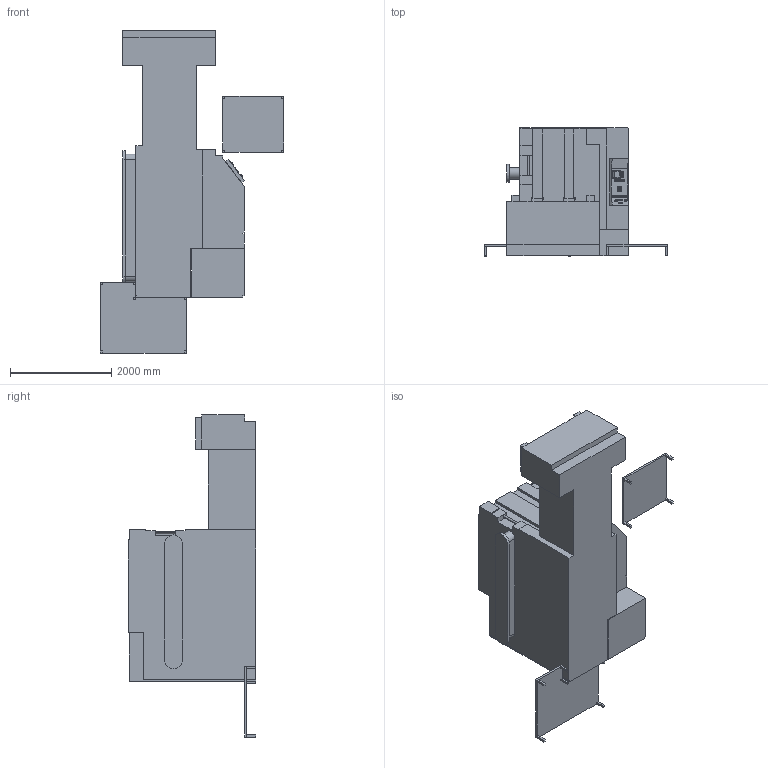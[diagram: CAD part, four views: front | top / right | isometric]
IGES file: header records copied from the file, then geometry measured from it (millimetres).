
Start section: START RECORD GO HERE.
Global section: file name: CU-bati.igs; native system: IBM CATIA IGES - CATIA Version 5 Release 10 ; preprocessor: CATIA Version 5 Release 10 ; date: 20030711.093113; units: millimetre
Bounding box: 3618.5 x 2526 x 6367.5 mm (x, y, z)
Surface area: 69393194.8 mm2 (no closed solid volume)
Topology: 0 solids, 0 shells, 734 faces, 3482 edges, 3382 vertices
Faces by surface type: plane 358, revolution 280, bspline 96
